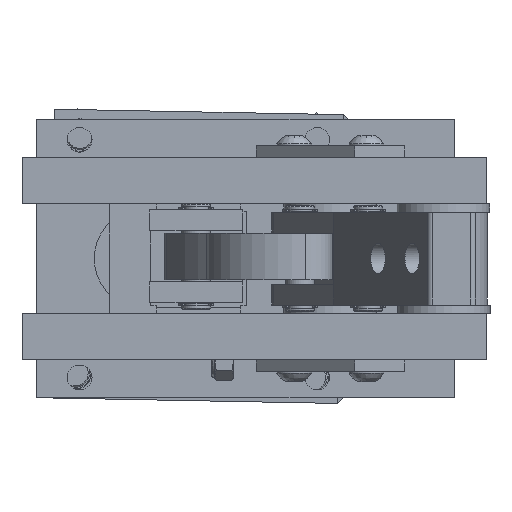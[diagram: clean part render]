
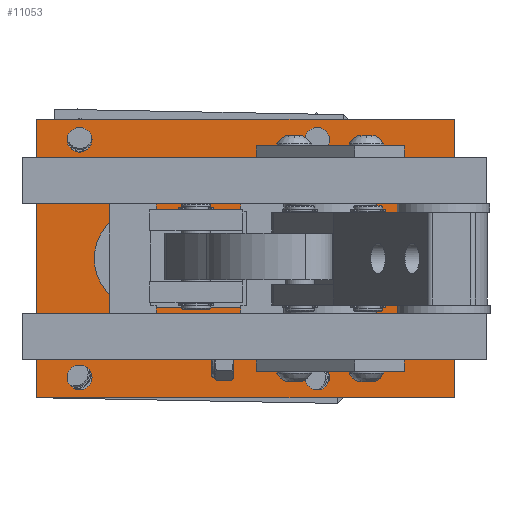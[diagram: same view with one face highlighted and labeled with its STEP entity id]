
A CAD part, left-side view. The second image highlights one B-rep face of the part: STEP entity #11053.
In plain terms, the highlighted planar face has unit normal (-1, 0, 0) as drawn and (0, 0, -1) by its records, which use the part's own axes.
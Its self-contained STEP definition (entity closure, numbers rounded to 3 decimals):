
#735=LINE($,#19170,#1239);
#739=LINE($,#19181,#1243);
#743=LINE($,#19190,#1247);
#747=LINE($,#19197,#1251);
#750=LINE($,#19203,#1254);
#752=LINE($,#19206,#1256);
#1239=VECTOR($,#14810,30.);
#1243=VECTOR($,#14822,30.);
#1247=VECTOR($,#14828,76.2);
#1251=VECTOR($,#14834,114.3);
#1254=VECTOR($,#14839,76.2);
#1256=VECTOR($,#14843,114.3);
#2414=FACE_BOUND($,#4106,.T.);
#2415=FACE_BOUND($,#4107,.T.);
#2416=FACE_BOUND($,#4108,.T.);
#2417=FACE_BOUND($,#4109,.T.);
#2418=FACE_BOUND($,#4110,.T.);
#2419=FACE_BOUND($,#4111,.T.);
#2420=FACE_BOUND($,#4112,.T.);
#2421=FACE_BOUND($,#4113,.T.);
#2422=FACE_BOUND($,#4114,.T.);
#2423=FACE_BOUND($,#4115,.T.);
#4106=EDGE_LOOP($,(#9038));
#4107=EDGE_LOOP($,(#9039));
#4108=EDGE_LOOP($,(#9040));
#4109=EDGE_LOOP($,(#9041));
#4110=EDGE_LOOP($,(#9042));
#4111=EDGE_LOOP($,(#9043));
#4112=EDGE_LOOP($,(#9044));
#4113=EDGE_LOOP($,(#9045));
#4114=EDGE_LOOP($,(#9046,#9047,#9048,#9049));
#4115=EDGE_LOOP($,(#9050,#9051,#9052,#9053));
#5039=CIRCLE($,#12243,3.391);
#5041=CIRCLE($,#12246,3.391);
#5043=CIRCLE($,#12249,3.391);
#5045=CIRCLE($,#12252,3.391);
#5050=CIRCLE($,#12260,4.25);
#5054=CIRCLE($,#12267,4.25);
#5058=CIRCLE($,#12274,4.25);
#5062=CIRCLE($,#12281,4.25);
#5063=CIRCLE($,#12283,13.487);
#5065=CIRCLE($,#12287,13.487);
#5846=VERTEX_POINT($,#19096);
#5848=VERTEX_POINT($,#19101);
#5850=VERTEX_POINT($,#19106);
#5852=VERTEX_POINT($,#19111);
#5857=VERTEX_POINT($,#19124);
#5861=VERTEX_POINT($,#19135);
#5865=VERTEX_POINT($,#19146);
#5869=VERTEX_POINT($,#19157);
#5870=VERTEX_POINT($,#19160);
#5871=VERTEX_POINT($,#19161);
#5874=VERTEX_POINT($,#19169);
#5876=VERTEX_POINT($,#19175);
#5880=VERTEX_POINT($,#19187);
#5881=VERTEX_POINT($,#19189);
#5883=VERTEX_POINT($,#19195);
#5885=VERTEX_POINT($,#19201);
#7003=EDGE_CURVE($,#5846,#5846,#5039,.T.);
#7005=EDGE_CURVE($,#5848,#5848,#5041,.T.);
#7007=EDGE_CURVE($,#5850,#5850,#5043,.T.);
#7009=EDGE_CURVE($,#5852,#5852,#5045,.T.);
#7014=EDGE_CURVE($,#5857,#5857,#5050,.T.);
#7018=EDGE_CURVE($,#5861,#5861,#5054,.T.);
#7022=EDGE_CURVE($,#5865,#5865,#5058,.T.);
#7026=EDGE_CURVE($,#5869,#5869,#5062,.T.);
#7027=EDGE_CURVE($,#5870,#5871,#5063,.T.);
#7031=EDGE_CURVE($,#5871,#5874,#735,.T.);
#7034=EDGE_CURVE($,#5874,#5876,#5065,.T.);
#7037=EDGE_CURVE($,#5876,#5870,#739,.T.);
#7041=EDGE_CURVE($,#5881,#5880,#743,.T.);
#7045=EDGE_CURVE($,#5880,#5883,#747,.T.);
#7048=EDGE_CURVE($,#5883,#5885,#750,.T.);
#7050=EDGE_CURVE($,#5885,#5881,#752,.T.);
#9038=ORIENTED_EDGE($,*,*,#7003,.T.);
#9039=ORIENTED_EDGE($,*,*,#7005,.T.);
#9040=ORIENTED_EDGE($,*,*,#7007,.T.);
#9041=ORIENTED_EDGE($,*,*,#7009,.T.);
#9042=ORIENTED_EDGE($,*,*,#7014,.T.);
#9043=ORIENTED_EDGE($,*,*,#7018,.T.);
#9044=ORIENTED_EDGE($,*,*,#7022,.T.);
#9045=ORIENTED_EDGE($,*,*,#7026,.T.);
#9046=ORIENTED_EDGE($,*,*,#7034,.T.);
#9047=ORIENTED_EDGE($,*,*,#7037,.T.);
#9048=ORIENTED_EDGE($,*,*,#7027,.T.);
#9049=ORIENTED_EDGE($,*,*,#7031,.T.);
#9050=ORIENTED_EDGE($,*,*,#7050,.T.);
#9051=ORIENTED_EDGE($,*,*,#7041,.T.);
#9052=ORIENTED_EDGE($,*,*,#7045,.T.);
#9053=ORIENTED_EDGE($,*,*,#7048,.T.);
#10462=PLANE($,#12295);
#11053=ADVANCED_FACE($,(#2414,#2415,#2416,#2417,#2418,#2419,#2420,#2421,
#2422,#2423),#10462,.F.);
#12243=AXIS2_PLACEMENT_3D($,#19097,#14722,#14723);
#12246=AXIS2_PLACEMENT_3D($,#19102,#14728,#14729);
#12249=AXIS2_PLACEMENT_3D($,#19107,#14734,#14735);
#12252=AXIS2_PLACEMENT_3D($,#19112,#14740,#14741);
#12260=AXIS2_PLACEMENT_3D($,#19125,#14756,#14757);
#12267=AXIS2_PLACEMENT_3D($,#19136,#14770,#14771);
#12274=AXIS2_PLACEMENT_3D($,#19147,#14784,#14785);
#12281=AXIS2_PLACEMENT_3D($,#19158,#14798,#14799);
#12283=AXIS2_PLACEMENT_3D($,#19162,#14802,#14803);
#12287=AXIS2_PLACEMENT_3D($,#19176,#14815,#14816);
#12295=AXIS2_PLACEMENT_3D($,#19208,#14846,#14847);
#14722=DIRECTION('center_axis',(0.,0.,1.));
#14723=DIRECTION('ref_axis',(1.,0.,0.));
#14728=DIRECTION('center_axis',(0.,0.,1.));
#14729=DIRECTION('ref_axis',(1.,0.,0.));
#14734=DIRECTION('center_axis',(0.,0.,1.));
#14735=DIRECTION('ref_axis',(1.,0.,0.));
#14740=DIRECTION('center_axis',(0.,0.,1.));
#14741=DIRECTION('ref_axis',(1.,0.,0.));
#14756=DIRECTION('center_axis',(0.,0.,1.));
#14757=DIRECTION('ref_axis',(1.,0.,0.));
#14770=DIRECTION('center_axis',(0.,0.,1.));
#14771=DIRECTION('ref_axis',(1.,0.,0.));
#14784=DIRECTION('center_axis',(0.,0.,1.));
#14785=DIRECTION('ref_axis',(1.,0.,0.));
#14798=DIRECTION('center_axis',(0.,0.,1.));
#14799=DIRECTION('ref_axis',(1.,0.,0.));
#14802=DIRECTION('center_axis',(0.,0.,1.));
#14803=DIRECTION('ref_axis',(0.,1.,0.));
#14810=DIRECTION($,(-1.,0.,0.));
#14815=DIRECTION('center_axis',(0.,0.,1.));
#14816=DIRECTION('ref_axis',(0.,-1.,0.));
#14822=DIRECTION($,(1.,0.,0.));
#14828=DIRECTION($,(0.,-1.,0.));
#14834=DIRECTION($,(-1.,0.,0.));
#14839=DIRECTION($,(0.,1.,0.));
#14843=DIRECTION($,(1.,0.,0.));
#14846=DIRECTION('center_axis',(0.,0.,1.));
#14847=DIRECTION('ref_axis',(1.,0.,0.));
#19096=CARTESIAN_POINT('',(49.702,-55.191,0.));
#19097=CARTESIAN_POINT('Origin',(53.093,-55.191,0.));
#19101=CARTESIAN_POINT('',(49.702,9.809,0.));
#19102=CARTESIAN_POINT('Origin',(53.093,9.809,0.));
#19106=CARTESIAN_POINT('',(-15.298,-55.191,0.));
#19107=CARTESIAN_POINT('Origin',(-11.907,-55.191,0.));
#19111=CARTESIAN_POINT('',(-15.298,9.809,0.));
#19112=CARTESIAN_POINT('Origin',(-11.907,9.809,0.));
#19124=CARTESIAN_POINT('',(76.343,-44.016,0.));
#19125=CARTESIAN_POINT('Origin',(80.593,-44.016,0.));
#19135=CARTESIAN_POINT('',(16.343,-44.016,0.));
#19136=CARTESIAN_POINT('Origin',(20.593,-44.016,0.));
#19146=CARTESIAN_POINT('',(76.343,-1.366,0.));
#19147=CARTESIAN_POINT('Origin',(80.593,-1.366,0.));
#19157=CARTESIAN_POINT('',(16.343,-1.366,0.));
#19158=CARTESIAN_POINT('Origin',(20.593,-1.366,0.));
#19160=CARTESIAN_POINT('',(35.593,-36.178,0.));
#19161=CARTESIAN_POINT('',(35.593,-9.203,0.));
#19162=CARTESIAN_POINT('Origin',(35.593,-22.691,0.));
#19169=CARTESIAN_POINT('',(5.593,-9.203,0.));
#19170=CARTESIAN_POINT($,(34.518,-9.203,0.));
#19175=CARTESIAN_POINT('',(5.593,-36.178,0.));
#19176=CARTESIAN_POINT('Origin',(5.593,-22.691,0.));
#19181=CARTESIAN_POINT($,(19.518,-36.178,0.));
#19187=CARTESIAN_POINT('',(90.593,-60.791,0.));
#19189=CARTESIAN_POINT('',(90.593,15.409,0.));
#19190=CARTESIAN_POINT($,(90.593,15.409,0.));
#19195=CARTESIAN_POINT('',(-23.707,-60.791,0.));
#19197=CARTESIAN_POINT($,(90.593,-60.791,0.));
#19201=CARTESIAN_POINT('',(-23.707,15.409,0.));
#19203=CARTESIAN_POINT($,(-23.707,-60.791,0.));
#19206=CARTESIAN_POINT($,(-23.707,15.409,0.));
#19208=CARTESIAN_POINT('Origin',(33.443,-22.691,0.));
